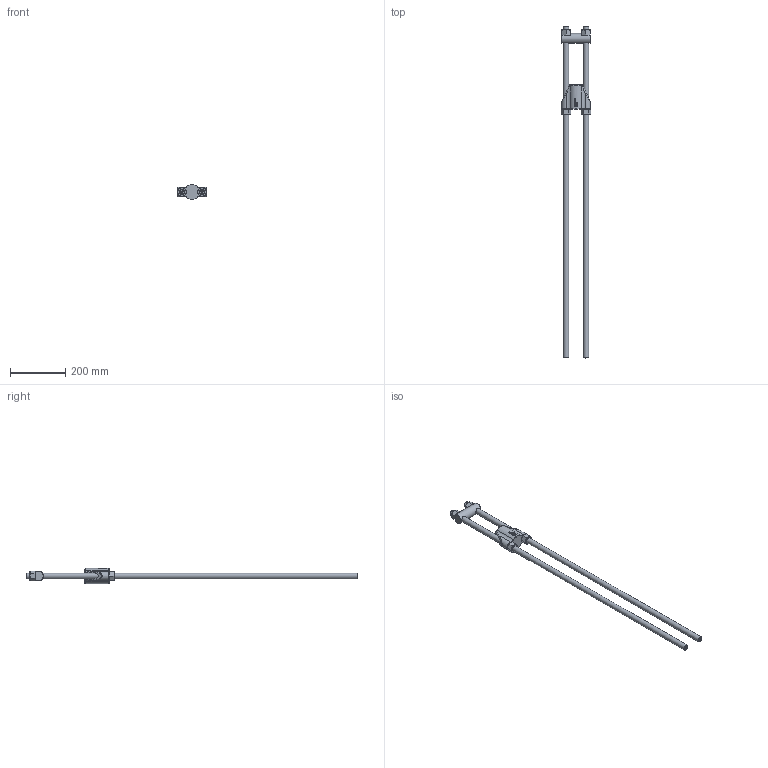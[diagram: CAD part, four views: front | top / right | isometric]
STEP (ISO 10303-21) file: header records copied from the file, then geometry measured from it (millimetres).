
FILE_DESCRIPTION(/* description */ (''),/* implementation_level */ '2;1');
FILE_NAME(/* name */ 'D:\Clienti\Redaelli (inventor)\BRC\STEP\Arrangemet\BRC016 72 111 0.stp',/* time_stamp */ '2021-05-08T08:17:41+02:00',/* author */ ('fabri'),/* organization */ (''),/* preprocessor_version */ 'ST-DEVELOPER v16.13',/* originating_system */ 'Autodesk Inventor 2018',/* authorisation */ '');
FILE_SCHEMA (('AUTOMOTIVE_DESIGN { 1 0 10303 214 3 1 1 }'));
Length unit declared in the file: millimetre
Products named in the file (5): BRC016 72 111 0; BRC016 71 112 0; BRC016 71 114 0_ROD; BRC016 71 113 0; BRC016 71 114 0_NUT
Assembly tree (8 placements, depth 2):
  BRC016 72 111 0
    BRC016 71 112 0
    BRC016 71 114 0_ROD  x2
    BRC016 71 113 0
    BRC016 71 114 0_NUT  x4
Bounding box: 106.64 x 1200 x 54.92 mm (x, y, z)
Volume: 1121791 mm3; surface area: 215418.8 mm2
Topology: 8 solids, 8 shells, 1538 faces, 4074 edges, 2686 vertices
Faces by surface type: plane 741, bspline 663, cone 62, cylinder 48, torus 20, sphere 4
Full cylindrical faces by diameter (mm): 17.294 x4, 20 x2, 21 x4, 36 x1
Entity records: 30080 total; most frequent: CARTESIAN_POINT 11579, ORIENTED_EDGE 4402, DIRECTION 2631, EDGE_CURVE 2201, VERTEX_POINT 1458, LINE 1219, VECTOR 1219, EDGE_LOOP 929
